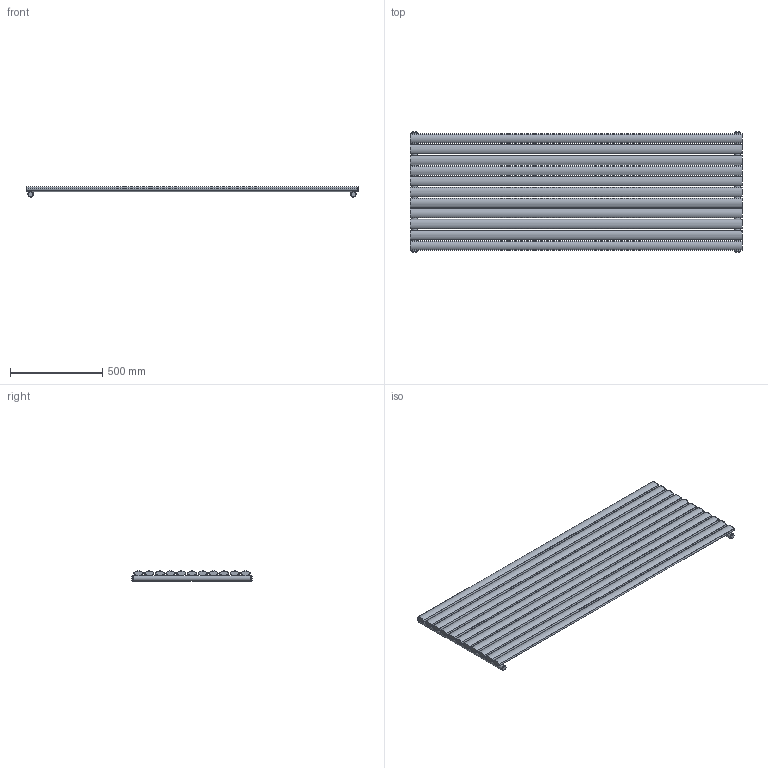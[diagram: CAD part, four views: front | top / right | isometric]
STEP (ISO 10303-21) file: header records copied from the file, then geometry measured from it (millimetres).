
FILE_DESCRIPTION(/* description */ (''),/* implementation_level */ '2;1');
FILE_NAME(/* name */ 'C:\Grzejniki\13DLUXRAD\pokojowe\FORTUNA\FORTUNA POJEDYNCZA 1800x642.iam.stp',/* time_stamp */ '2016-06-28T17:32:22+02:00',/* author */ ('m.szydziak'),/* organization */ (''),/* preprocessor_version */ 'ST-DEVELOPER v16.5',/* originating_system */ 'Autodesk Inventor 2017',/* authorisation */ '');
FILE_SCHEMA (('AUTOMOTIVE_DESIGN { 1 0 10303 214 3 1 1 }'));
Length unit declared in the file: millimetre
Products named in the file (5): FORTUNA POJEDYNCZA 1800x642; fi30x1,5x642; 50x25x1,2x1800; zaślepka fi30 G0,5inch; korek
Assembly tree (21 placements, depth 2):
  FORTUNA POJEDYNCZA 1800x642
    fi30x1,5x642  x2
    50x25x1,2x1800  x11
    zaślepka fi30 G0,5inch  x4
    korek  x4
Bounding box: 1800 x 654 x 54.86 mm (x, y, z)
Volume: 2978058.7 mm3; surface area: 4896406.4 mm2
Topology: 21 solids, 21 shells, 260 faces, 680 edges, 484 vertices
Faces by surface type: cylinder 148, plane 112
Full cylindrical faces by diameter (mm): 5 x22, 5.8 x22, 18.631 x4, 24 x4, 27 x6, 30 x2
Entity records: 2548 total; most frequent: CARTESIAN_POINT 1154, DIRECTION 254, ORIENTED_EDGE 216, AXIS2_PLACEMENT_3D 111, EDGE_CURVE 108, EDGE_LOOP 96, VERTEX_POINT 88, FACE_BOUND 48
